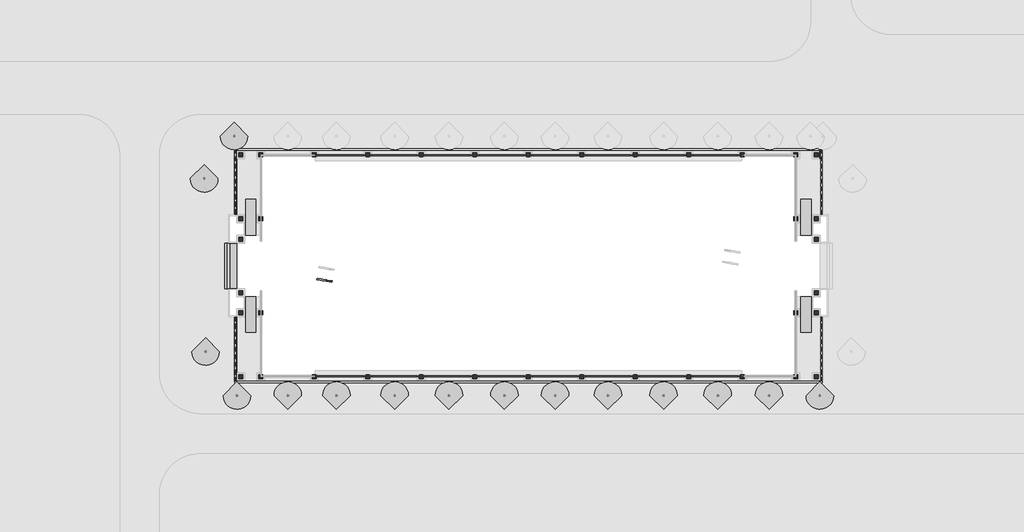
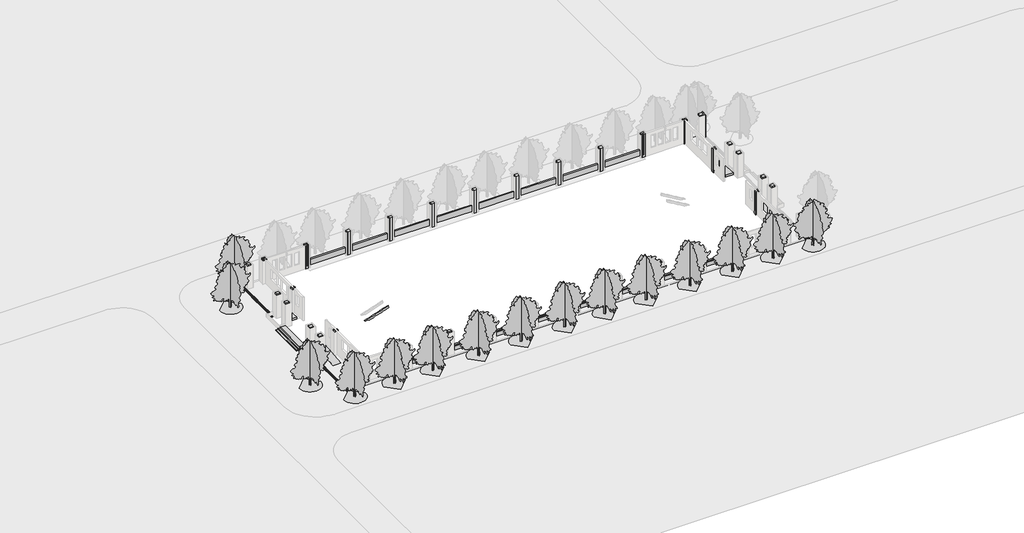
# One storey, part 4 of 5: 38 columns, 15 geographic elements, 5 proxies, 4 ramps, 2 slabs, 1 member, 1 wall.
"""IFC4 building model written with IfcOpenShell, lengths in millimetres."""

from ifc_helpers import new_model, si_unit, frame, origin, place, context, project, spatial, polyline, outline, extrude, faceted_brep, transform, mapped, element, save
from components import generic_models_2f0b77b8, generic_models_5a88f2f2, generic_models_980c342f, generic_models_ba8f26eb, generic_models_7e917ab8, generic_models_fe227e94, generic_models_08f2e09a, column_600_x_600mm_80347e26, column_600_x_600mm_ad8a5c12, geographic_element_3358a221, geographic_element_35dbb388, ramp_6c5225c9, ramp_69e4c4a1, ramp_9aa5c65a, ramp_28147cfc

model = new_model("IFC4")

# Units and contexts
model_context = context("Model", 3, world=origin())
ifc_project = project(units=[si_unit("LENGTHUNIT", "METRE", prefix="MILLI")], contexts=[model_context])

# Site, building, storey
site = spatial("IfcSite", under=ifc_project)
building = spatial("IfcBuilding", under=site)
storey = spatial("IfcBuildingStorey", under=building, Name="室外", Elevation=-450.0)

# Proxies
placement = place(None, origin())
element("IfcBuildingElementProxy", 1, Name="空调板围档", ObjectType="空调板围档", at=placement, inside=storey, context=model_context, shape_type="SweptSolid", body=[
    extrude(outline(polyline([(33280.0, 820.0), (33200.0, 820.0), (33200.0, -20.0), (33050.0, -20.0), (33050.0, 1120.0), (33330.0, 1120.0), (33330.0, 1020.0), (33280.0, 1020.0), (33280.0, 820.0)])), frame((11300.0, 0.0, 0.0), z_axis=(1.0, 0.0, 0.0), x_axis=(0.0, 1.0, 0.0)), (0.0, 0.0, 1.0), 7400.0),
    extrude(outline(polyline([(33280.0, 820.0), (33200.0, 820.0), (33200.0, -20.0), (33050.0, -20.0), (33050.0, 1120.0), (33330.0, 1120.0), (33330.0, 1020.0), (33280.0, 1020.0), (33280.0, 820.0)])), frame((19300.0, 0.0, 0.0), z_axis=(1.0, 0.0, 0.0), x_axis=(0.0, 1.0, 0.0)), (0.0, 0.0, 1.0), 7400.0),
    extrude(outline(polyline([(33280.0, 820.0), (33200.0, 820.0), (33200.0, -20.0), (33050.0, -20.0), (33050.0, 1120.0), (33330.0, 1120.0), (33330.0, 1020.0), (33280.0, 1020.0), (33280.0, 820.0)])), frame((27300.0, 0.0, 0.0), z_axis=(1.0, 0.0, 0.0), x_axis=(0.0, 1.0, 0.0)), (0.0, 0.0, 1.0), 7400.0),
    extrude(outline(polyline([(33280.0, 820.0), (33200.0, 820.0), (33200.0, -20.0), (33050.0, -20.0), (33050.0, 1120.0), (33330.0, 1120.0), (33330.0, 1020.0), (33280.0, 1020.0), (33280.0, 820.0)])), frame((35300.0, 0.0, 0.0), z_axis=(1.0, 0.0, 0.0), x_axis=(0.0, 1.0, 0.0)), (0.0, 0.0, 1.0), 7400.0),
    extrude(outline(polyline([(33280.0, 820.0), (33200.0, 820.0), (33200.0, -20.0), (33050.0, -20.0), (33050.0, 1120.0), (33330.0, 1120.0), (33330.0, 1020.0), (33280.0, 1020.0), (33280.0, 820.0)])), frame((43300.0, 0.0, 0.0), z_axis=(1.0, 0.0, 0.0), x_axis=(0.0, 1.0, 0.0)), (0.0, 0.0, 1.0), 7400.0),
    extrude(outline(polyline([(33280.0, 820.0), (33200.0, 820.0), (33200.0, -20.0), (33050.0, -20.0), (33050.0, 1120.0), (33330.0, 1120.0), (33330.0, 1020.0), (33280.0, 1020.0), (33280.0, 820.0)])), frame((51300.0, 0.0, 0.0), z_axis=(1.0, 0.0, 0.0), x_axis=(0.0, 1.0, 0.0)), (0.0, 0.0, 1.0), 7400.0),
    extrude(outline(polyline([(33280.0, 820.0), (33200.0, 820.0), (33200.0, -20.0), (33050.0, -20.0), (33050.0, 1120.0), (33330.0, 1120.0), (33330.0, 1020.0), (33280.0, 1020.0), (33280.0, 820.0)])), frame((59300.0, 0.0, 0.0), z_axis=(1.0, 0.0, 0.0), x_axis=(0.0, 1.0, 0.0)), (0.0, 0.0, 1.0), 7400.0),
    extrude(outline(polyline([(33280.0, 820.0), (33200.0, 820.0), (33200.0, -20.0), (33050.0, -20.0), (33050.0, 1120.0), (33330.0, 1120.0), (33330.0, 1020.0), (33280.0, 1020.0), (33280.0, 820.0)])), frame((67300.0, 0.0, 0.0), z_axis=(1.0, 0.0, 0.0), x_axis=(0.0, 1.0, 0.0)), (0.0, 0.0, 1.0), 7400.0),
])
element("IfcBuildingElementProxy", 2, Name="空调板围档", ObjectType="空调板围档", at=placement, inside=storey, context=model_context, shape_type="SweptSolid", body=[
    extrude(outline(polyline([(0.0, 820.0), (-80.0, 820.0), (-80.0, 1020.0), (-130.0, 1020.0), (-130.0, 1120.0), (150.0, 1120.0), (150.0, -20.0), (0.0, -20.0), (0.0, 820.0)])), frame((11300.0, 0.0, 0.0), z_axis=(1.0, 0.0, 0.0), x_axis=(0.0, 1.0, 0.0)), (0.0, 0.0, 1.0), 7400.0),
    extrude(outline(polyline([(0.0, 820.0), (-80.0, 820.0), (-80.0, 1020.0), (-130.0, 1020.0), (-130.0, 1120.0), (150.0, 1120.0), (150.0, -20.0), (0.0, -20.0), (0.0, 820.0)])), frame((19300.0, 0.0, 0.0), z_axis=(1.0, 0.0, 0.0), x_axis=(0.0, 1.0, 0.0)), (0.0, 0.0, 1.0), 7400.0),
    extrude(outline(polyline([(0.0, 820.0), (-80.0, 820.0), (-80.0, 1020.0), (-130.0, 1020.0), (-130.0, 1120.0), (150.0, 1120.0), (150.0, -20.0), (0.0, -20.0), (0.0, 820.0)])), frame((27300.0, 0.0, 0.0), z_axis=(1.0, 0.0, 0.0), x_axis=(0.0, 1.0, 0.0)), (0.0, 0.0, 1.0), 7400.0),
    extrude(outline(polyline([(0.0, 820.0), (-80.0, 820.0), (-80.0, 1020.0), (-130.0, 1020.0), (-130.0, 1120.0), (150.0, 1120.0), (150.0, -20.0), (0.0, -20.0), (0.0, 820.0)])), frame((35300.0, 0.0, 0.0), z_axis=(1.0, 0.0, 0.0), x_axis=(0.0, 1.0, 0.0)), (0.0, 0.0, 1.0), 7400.0),
    extrude(outline(polyline([(0.0, 820.0), (-80.0, 820.0), (-80.0, 1020.0), (-130.0, 1020.0), (-130.0, 1120.0), (150.0, 1120.0), (150.0, -20.0), (0.0, -20.0), (0.0, 820.0)])), frame((43300.0, 0.0, 0.0), z_axis=(1.0, 0.0, 0.0), x_axis=(0.0, 1.0, 0.0)), (0.0, 0.0, 1.0), 7400.0),
    extrude(outline(polyline([(0.0, 820.0), (-80.0, 820.0), (-80.0, 1020.0), (-130.0, 1020.0), (-130.0, 1120.0), (150.0, 1120.0), (150.0, -20.0), (0.0, -20.0), (0.0, 820.0)])), frame((51300.0, 0.0, 0.0), z_axis=(1.0, 0.0, 0.0), x_axis=(0.0, 1.0, 0.0)), (0.0, 0.0, 1.0), 7400.0),
    extrude(outline(polyline([(0.0, 820.0), (-80.0, 820.0), (-80.0, 1020.0), (-130.0, 1020.0), (-130.0, 1120.0), (150.0, 1120.0), (150.0, -20.0), (0.0, -20.0), (0.0, 820.0)])), frame((59300.0, 0.0, 0.0), z_axis=(1.0, 0.0, 0.0), x_axis=(0.0, 1.0, 0.0)), (0.0, 0.0, 1.0), 7400.0),
    extrude(outline(polyline([(0.0, 820.0), (-80.0, 820.0), (-80.0, 1020.0), (-130.0, 1020.0), (-130.0, 1120.0), (150.0, 1120.0), (150.0, -20.0), (0.0, -20.0), (0.0, 820.0)])), frame((67300.0, 0.0, 0.0), z_axis=(1.0, 0.0, 0.0), x_axis=(0.0, 1.0, 0.0)), (0.0, 0.0, 1.0), 7400.0),
])
generic_models_shape = generic_models_2f0b77b8(model_context)
element("IfcBuildingElementProxy", 3, Name="室外台阶 : 室外台阶", ObjectType="室外台阶 : 室外台阶", at=placement, inside=storey, context=model_context, shape_type="MappedRepresentation", body=[
    mapped(generic_models_shape, transform((-600.0000001, 19999.7006935, 0.0), x_axis=(0.0, -1.0, 0.0), y_axis=(1.0, 0.0, 0.0), z_axis=(0.0, 0.0, 1.0))),
])
generic_models_2_shape = generic_models_5a88f2f2(model_context)
generic_models_3_shape = generic_models_980c342f(model_context)
generic_models_4_shape = generic_models_ba8f26eb(model_context)
element("IfcBuildingElementProxy", 4, Name="排水沟盖板 : 排水沟盖板", ObjectType="排水沟盖板 : 排水沟盖板", at=placement, inside=storey, context=model_context, shape_type="MappedRepresentation", body=[
    mapped(generic_models_2_shape, transform((-800.0000001, 33799.3961574, -450.0), x_axis=(0.0, -1.0, 0.0), y_axis=(1.0, 0.0, 0.0), z_axis=(0.0, 0.0, 1.0))),
    mapped(generic_models_3_shape, transform((-800.0000001, 33799.3961574, -450.0), x_axis=(0.0, -1.0, 0.0), y_axis=(1.0, 0.0, 0.0), z_axis=(0.0, 0.0, 1.0))),
    mapped(generic_models_4_shape, transform((-800.0000001, 33799.3961574, -450.0), x_axis=(0.0, -1.0, 0.0), y_axis=(1.0, 0.0, 0.0), z_axis=(0.0, 0.0, 1.0))),
])
generic_models_5_shape = generic_models_7e917ab8(model_context)
generic_models_6_shape = generic_models_fe227e94(model_context)
generic_models_7_shape = generic_models_08f2e09a(model_context)
element("IfcBuildingElementProxy", 5, Name="排水沟盖板 : 排水沟盖板", ObjectType="排水沟盖板 : 排水沟盖板", at=placement, inside=storey, context=model_context, shape_type="MappedRepresentation", body=[
    mapped(generic_models_5_shape, transform((-800.0000001, -599.3961574, -450.0), x_axis=(0.0, 1.0, 0.0), y_axis=(-1.0, 0.0, 0.0), z_axis=(0.0, 0.0, 1.0))),
    mapped(generic_models_6_shape, transform((-800.0000001, -599.3961574, -450.0), x_axis=(0.0, 1.0, 0.0), y_axis=(-1.0, 0.0, 0.0), z_axis=(0.0, 0.0, 1.0))),
    mapped(generic_models_7_shape, transform((-800.0000001, -599.3961574, -450.0), x_axis=(0.0, 1.0, 0.0), y_axis=(-1.0, 0.0, 0.0), z_axis=(0.0, 0.0, 1.0))),
])

# Columns
element("IfcColumn", 6, ObjectType="矩形柱 : 600 x 600mm", at=placement, inside=storey, context=model_context, shape_type="SweptSolid", body=[
    extrude(outline(polyline([(2700.0, 32900.0), (2700.0, 33500.0), (3300.0, 33500.0), (3300.0, 33252.6954639), (3167.0000002, 33252.6954639), (2897.0000002, 33252.6954639), (2897.0000002, 32900.0), (2700.0, 32900.0)])), frame((0.0, 0.0, -450.0), z_axis=(0.0, 0.0, 1.0), x_axis=(1.0, 0.0, 0.0)), (0.0, 0.0, 1.0), 4650.0),
    extrude(outline(polyline([(3300.0, 32900.0), (3167.0000002, 32900.0), (3167.0000002, 32982.6954639), (3300.0, 32982.6954639), (3300.0, 32900.0)])), frame((0.0, 0.0, -450.0), z_axis=(0.0, 0.0, 1.0), x_axis=(1.0, 0.0, 0.0)), (0.0, 0.0, 1.0), 4650.0),
])
element("IfcColumn", 7, ObjectType="矩形柱 : 600 x 600mm", at=placement, inside=storey, context=model_context, shape_type="Brep", body=[
    faceted_brep([(11300.0, 33500.0, 4200.0), (10700.0, 33500.0, 4200.0), (10700.0, 33252.6954639, 4200.0), (11153.0, 33252.6954639, 4200.0), (11153.0, 32982.6954639, 4200.0), (11153.0, 32900.0, 4200.0), (11300.0, 32900.0, 4200.0), (11300.0, 32929.640208, 4200.0), (11300.0, 33500.0, -450.0), (11300.0, 32929.640208, -450.0), (11300.0, 32900.0, -450.0), (10700.0, 32900.0, -450.0), (10700.0, 32982.6954639, -450.0), (11153.0, 32982.6954639, -450.0), (11153.0, 33252.6954639, -450.0), (10700.0, 33252.6954639, -450.0), (10700.0, 33500.0, -450.0), (11153.0, 32900.0, 0.0), (10883.0, 32900.0, 0.0), (10883.0, 32900.0, 4200.0), (10700.0, 32900.0, 4200.0), (10700.0, 32982.6954639, 4200.0), (10883.0, 32982.6954639, 4200.0), (10883.0, 32982.6954639, 0.0), (11153.0, 32982.6954639, 0.0)], [[[0, 1, 2, 3, 4, 5, 6, 7]], [[8, 9, 10, 11, 12, 13, 14, 15, 16]], [[1, 0, 8, 16]], [[1, 16, 15, 2]], [[11, 10, 6, 5, 17, 18, 19, 20]], [[0, 7, 6, 10, 9, 8]], [[12, 21, 22, 23, 24, 13]], [[14, 3, 2, 15]], [[3, 14, 13, 24, 4]], [[18, 23, 22, 19]], [[24, 17, 5, 4]], [[23, 18, 17, 24]], [[21, 20, 19, 22]], [[11, 20, 21, 12]]]),
])
element("IfcColumn", 8, ObjectType="矩形柱 : 600 x 600mm", at=placement, inside=storey, context=model_context, shape_type="Brep", body=[
    faceted_brep([(19300.0, 33500.0, 4200.0), (18700.0, 33500.0, 4200.0), (18700.0, 32929.640208, 4200.0), (18700.0, 32900.0, 4200.0), (19300.0, 32900.0, 4200.0), (19300.0, 32929.640208, 4200.0), (19300.0, 33500.0, -450.0), (19300.0, 32929.640208, -450.0), (19300.0, 32900.0, -450.0), (18700.0, 32900.0, -450.0), (18700.0, 32929.640208, -450.0), (18700.0, 33500.0, -450.0)], [[[0, 1, 2, 3, 4, 5]], [[6, 7, 8, 9, 10, 11]], [[1, 0, 6, 11]], [[3, 2, 1, 11, 10, 9]], [[4, 3, 9, 8]], [[0, 5, 4, 8, 7, 6]]]),
])
element("IfcColumn", 9, ObjectType="矩形柱 : 600 x 600mm", at=placement, inside=storey, context=model_context, shape_type="Brep", body=[
    faceted_brep([(27300.0, 33500.0, 4200.0), (26700.0, 33500.0, 4200.0), (26700.0, 32929.640208, 4200.0), (26700.0, 32900.0, 4200.0), (27300.0, 32900.0, 4200.0), (27300.0, 32929.640208, 4200.0), (27300.0, 33500.0, -450.0), (27300.0, 32929.640208, -450.0), (27300.0, 32900.0, -450.0), (26700.0, 32900.0, -450.0), (26700.0, 32929.640208, -450.0), (26700.0, 33500.0, -450.0)], [[[0, 1, 2, 3, 4, 5]], [[6, 7, 8, 9, 10, 11]], [[1, 0, 6, 11]], [[3, 2, 1, 11, 10, 9]], [[4, 3, 9, 8]], [[0, 5, 4, 8, 7, 6]]]),
])
element("IfcColumn", 10, ObjectType="矩形柱 : 600 x 600mm", at=placement, inside=storey, context=model_context, shape_type="Brep", body=[
    faceted_brep([(35300.0, 33500.0, 4200.0), (34700.0, 33500.0, 4200.0), (34700.0, 32929.640208, 4200.0), (34700.0, 32900.0, 4200.0), (35300.0, 32900.0, 4200.0), (35300.0, 32929.640208, 4200.0), (35300.0, 33500.0, -450.0), (35300.0, 32929.640208, -450.0), (35300.0, 32900.0, -450.0), (34700.0, 32900.0, -450.0), (34700.0, 32929.640208, -450.0), (34700.0, 33500.0, -450.0)], [[[0, 1, 2, 3, 4, 5]], [[6, 7, 8, 9, 10, 11]], [[1, 0, 6, 11]], [[3, 2, 1, 11, 10, 9]], [[4, 3, 9, 8]], [[0, 5, 4, 8, 7, 6]]]),
])
element("IfcColumn", 11, ObjectType="矩形柱 : 600 x 600mm", at=placement, inside=storey, context=model_context, shape_type="Brep", body=[
    faceted_brep([(43300.0, 33500.0, 4200.0), (42700.0, 33500.0, 4200.0), (42700.0, 32929.640208, 4200.0), (42700.0, 32900.0, 4200.0), (43300.0, 32900.0, 4200.0), (43300.0, 32929.640208, 4200.0), (43300.0, 33500.0, -450.0), (43300.0, 32929.640208, -450.0), (43300.0, 32900.0, -450.0), (42700.0, 32900.0, -450.0), (42700.0, 32929.640208, -450.0), (42700.0, 33500.0, -450.0)], [[[0, 1, 2, 3, 4, 5]], [[6, 7, 8, 9, 10, 11]], [[1, 0, 6, 11]], [[3, 2, 1, 11, 10, 9]], [[4, 3, 9, 8]], [[0, 5, 4, 8, 7, 6]]]),
])
element("IfcColumn", 12, ObjectType="矩形柱 : 600 x 600mm", at=placement, inside=storey, context=model_context, shape_type="Brep", body=[
    faceted_brep([(51300.0, 33500.0, 4200.0), (50700.0, 33500.0, 4200.0), (50700.0, 32929.640208, 4200.0), (50700.0, 32900.0, 4200.0), (51300.0, 32900.0, 4200.0), (51300.0, 32929.640208, 4200.0), (51300.0, 33500.0, -450.0), (51300.0, 32929.640208, -450.0), (51300.0, 32900.0, -450.0), (50700.0, 32900.0, -450.0), (50700.0, 32929.640208, -450.0), (50700.0, 33500.0, -450.0)], [[[0, 1, 2, 3, 4, 5]], [[6, 7, 8, 9, 10, 11]], [[1, 0, 6, 11]], [[3, 2, 1, 11, 10, 9]], [[4, 3, 9, 8]], [[0, 5, 4, 8, 7, 6]]]),
])
element("IfcColumn", 13, ObjectType="矩形柱 : 600 x 600mm", at=placement, inside=storey, context=model_context, shape_type="Brep", body=[
    faceted_brep([(59300.0, 33500.0, 4200.0), (58700.0, 33500.0, 4200.0), (58700.0, 32929.640208, 4200.0), (58700.0, 32900.0, 4200.0), (59300.0, 32900.0, 4200.0), (59300.0, 32929.640208, 4200.0), (59300.0, 33500.0, -450.0), (59300.0, 32929.640208, -450.0), (59300.0, 32900.0, -450.0), (58700.0, 32900.0, -450.0), (58700.0, 32929.640208, -450.0), (58700.0, 33500.0, -450.0)], [[[0, 1, 2, 3, 4, 5]], [[6, 7, 8, 9, 10, 11]], [[1, 0, 6, 11]], [[3, 2, 1, 11, 10, 9]], [[4, 3, 9, 8]], [[0, 5, 4, 8, 7, 6]]]),
])
element("IfcColumn", 14, ObjectType="矩形柱 : 600 x 600mm", at=placement, inside=storey, context=model_context, shape_type="Brep", body=[
    faceted_brep([(67300.0, 33500.0, 4200.0), (66700.0, 33500.0, 4200.0), (66700.0, 32929.640208, 4200.0), (66700.0, 32900.0, 4200.0), (67300.0, 32900.0, 4200.0), (67300.0, 32929.640208, 4200.0), (67300.0, 33500.0, -450.0), (67300.0, 32929.640208, -450.0), (67300.0, 32900.0, -450.0), (66700.0, 32900.0, -450.0), (66700.0, 32929.640208, -450.0), (66700.0, 33500.0, -450.0)], [[[0, 1, 2, 3, 4, 5]], [[6, 7, 8, 9, 10, 11]], [[1, 0, 6, 11]], [[3, 2, 1, 11, 10, 9]], [[4, 3, 9, 8]], [[0, 5, 4, 8, 7, 6]]]),
])
element("IfcColumn", 15, ObjectType="矩形柱 : 600 x 600mm", at=placement, inside=storey, context=model_context, shape_type="Brep", body=[
    faceted_brep([(19300.0, -300.0, 4200.0), (19300.0, 270.359792, 4200.0), (19300.0, 300.0, 4200.0), (18700.0, 300.0, 4200.0), (18700.0, 270.359792, 4200.0), (18700.0, -300.0, 4200.0), (19300.0, -300.0, -450.0), (18700.0, -300.0, -450.0), (18700.0, 270.359792, -450.0), (18700.0, 300.0, -450.0), (19300.0, 300.0, -450.0), (19300.0, 270.359792, -450.0)], [[[0, 1, 2, 3, 4, 5]], [[6, 7, 8, 9, 10, 11]], [[5, 7, 6, 0]], [[3, 9, 8, 7, 5, 4]], [[2, 10, 9, 3]], [[0, 6, 11, 10, 2, 1]]]),
])
element("IfcColumn", 16, ObjectType="矩形柱 : 600 x 600mm", at=placement, inside=storey, context=model_context, shape_type="Brep", body=[
    faceted_brep([(27300.0, -300.0, 4200.0), (27300.0, 270.359792, 4200.0), (27300.0, 300.0, 4200.0), (26700.0, 300.0, 4200.0), (26700.0, 270.359792, 4200.0), (26700.0, -300.0, 4200.0), (27300.0, -300.0, -450.0), (26700.0, -300.0, -450.0), (26700.0, 270.359792, -450.0), (26700.0, 300.0, -450.0), (27300.0, 300.0, -450.0), (27300.0, 270.359792, -450.0)], [[[0, 1, 2, 3, 4, 5]], [[6, 7, 8, 9, 10, 11]], [[5, 7, 6, 0]], [[3, 9, 8, 7, 5, 4]], [[2, 10, 9, 3]], [[0, 6, 11, 10, 2, 1]]]),
])
element("IfcColumn", 17, ObjectType="矩形柱 : 600 x 600mm", at=placement, inside=storey, context=model_context, shape_type="Brep", body=[
    faceted_brep([(35300.0, -300.0, 4200.0), (35300.0, 270.359792, 4200.0), (35300.0, 300.0, 4200.0), (34700.0, 300.0, 4200.0), (34700.0, 270.359792, 4200.0), (34700.0, -300.0, 4200.0), (35300.0, -300.0, -450.0), (34700.0, -300.0, -450.0), (34700.0, 270.359792, -450.0), (34700.0, 300.0, -450.0), (35300.0, 300.0, -450.0), (35300.0, 270.359792, -450.0)], [[[0, 1, 2, 3, 4, 5]], [[6, 7, 8, 9, 10, 11]], [[5, 7, 6, 0]], [[3, 9, 8, 7, 5, 4]], [[2, 10, 9, 3]], [[0, 6, 11, 10, 2, 1]]]),
])
element("IfcColumn", 18, ObjectType="矩形柱 : 600 x 600mm", at=placement, inside=storey, context=model_context, shape_type="Brep", body=[
    faceted_brep([(43300.0, -300.0, 4200.0), (43300.0, 270.359792, 4200.0), (43300.0, 300.0, 4200.0), (42700.0, 300.0, 4200.0), (42700.0, 270.359792, 4200.0), (42700.0, -300.0, 4200.0), (43300.0, -300.0, -450.0), (42700.0, -300.0, -450.0), (42700.0, 270.359792, -450.0), (42700.0, 300.0, -450.0), (43300.0, 300.0, -450.0), (43300.0, 270.359792, -450.0)], [[[0, 1, 2, 3, 4, 5]], [[6, 7, 8, 9, 10, 11]], [[5, 7, 6, 0]], [[3, 9, 8, 7, 5, 4]], [[2, 10, 9, 3]], [[0, 6, 11, 10, 2, 1]]]),
])
element("IfcColumn", 19, ObjectType="矩形柱 : 600 x 600mm", at=placement, inside=storey, context=model_context, shape_type="Brep", body=[
    faceted_brep([(51300.0, -300.0, 4200.0), (51300.0, 270.359792, 4200.0), (51300.0, 300.0, 4200.0), (50700.0, 300.0, 4200.0), (50700.0, 270.359792, 4200.0), (50700.0, -300.0, 4200.0), (51300.0, -300.0, -450.0), (50700.0, -300.0, -450.0), (50700.0, 270.359792, -450.0), (50700.0, 300.0, -450.0), (51300.0, 300.0, -450.0), (51300.0, 270.359792, -450.0)], [[[0, 1, 2, 3, 4, 5]], [[6, 7, 8, 9, 10, 11]], [[5, 7, 6, 0]], [[3, 9, 8, 7, 5, 4]], [[2, 10, 9, 3]], [[0, 6, 11, 10, 2, 1]]]),
])
element("IfcColumn", 20, ObjectType="矩形柱 : 600 x 600mm", at=placement, inside=storey, context=model_context, shape_type="Brep", body=[
    faceted_brep([(59300.0, -300.0, 4200.0), (59300.0, 270.359792, 4200.0), (59300.0, 300.0, 4200.0), (58700.0, 300.0, 4200.0), (58700.0, 270.359792, 4200.0), (58700.0, -300.0, 4200.0), (59300.0, -300.0, -450.0), (58700.0, -300.0, -450.0), (58700.0, 270.359792, -450.0), (58700.0, 300.0, -450.0), (59300.0, 300.0, -450.0), (59300.0, 270.359792, -450.0)], [[[0, 1, 2, 3, 4, 5]], [[6, 7, 8, 9, 10, 11]], [[5, 7, 6, 0]], [[3, 9, 8, 7, 5, 4]], [[2, 10, 9, 3]], [[0, 6, 11, 10, 2, 1]]]),
])
element("IfcColumn", 21, ObjectType="矩形柱 : 600 x 600mm", at=placement, inside=storey, context=model_context, shape_type="Brep", body=[
    faceted_brep([(67300.0, -300.0, 4200.0), (67300.0, 270.359792, 4200.0), (67300.0, 300.0, 4200.0), (66700.0, 300.0, 4200.0), (66700.0, 270.359792, 4200.0), (66700.0, -300.0, 4200.0), (67300.0, -300.0, -450.0), (66700.0, -300.0, -450.0), (66700.0, 270.359792, -450.0), (66700.0, 300.0, -450.0), (67300.0, 300.0, -450.0), (67300.0, 270.359792, -450.0)], [[[0, 1, 2, 3, 4, 5]], [[6, 7, 8, 9, 10, 11]], [[5, 7, 6, 0]], [[3, 9, 8, 7, 5, 4]], [[2, 10, 9, 3]], [[0, 6, 11, 10, 2, 1]]]),
])
element("IfcColumn", 22, ObjectType="矩形柱 : 600 x 600mm", at=placement, inside=storey, context=model_context, shape_type="Brep", body=[
    faceted_brep([(75300.0, 300.0, 4200.0), (75117.0, 300.0, 4200.0), (75117.0, 217.3045358, 4200.0), (75300.0, 217.3045358, 4200.0), (74700.0, 300.0, -450.0), (75300.0, 300.0, -450.0), (75300.0, 217.3045358, -450.0), (75117.0, 217.3045358, -450.0), (75117.0, -52.6954642, -450.0), (75300.0, -52.6954642, -450.0), (75300.0, -300.0, -450.0), (74700.0, -300.0, -450.0), (74700.0, 269.7507199, -450.0), (74700.0, 299.7507199, -450.0), (75300.0, -300.0, 4200.0), (74700.0, -300.0, 4200.0), (74700.0, 269.7507199, 4200.0), (74700.0, 299.7507199, 4200.0), (74700.0, 300.0, 4200.0), (74847.0, 300.0, 4200.0), (74847.0, 300.0, 0.0), (75117.0, 300.0, 0.0), (74847.0, -52.6954642, 4200.0), (74847.0, -52.6954642, 0.0), (75117.0, 217.3045358, 0.0), (75117.0, 217.3045358, 4050.0), (75117.0, -52.6954642, 0.0), (75117.0, -52.6954642, 4200.0), (75300.0, -52.6954642, 4200.0)], [[[0, 1, 2, 3]], [[4, 5, 6, 7, 8, 9, 10, 11, 12, 13]], [[14, 15, 11, 10]], [[15, 16, 17, 18, 4, 13, 12, 11]], [[5, 4, 18, 19, 20, 21, 1, 0]], [[5, 0, 3, 6]], [[22, 23, 20, 19]], [[1, 21, 24, 25, 2]], [[23, 26, 24, 21, 20]], [[23, 22, 27, 26]], [[8, 26, 27, 28, 9]], [[24, 7, 6, 3, 2, 25]], [[26, 8, 7, 24]], [[15, 14, 28, 27, 22, 19, 18, 17, 16]], [[14, 10, 9, 28]]]),
])
element("IfcColumn", 23, ObjectType="矩形柱 : 600 x 600mm", at=placement, inside=storey, context=model_context, shape_type="Brep", body=[
    faceted_brep([(3300.0, 23900.0, 4200.0), (3167.0000002, 23900.0, 4200.0), (3167.0000002, 23516.723093, 4200.0), (3300.0, 23516.723093, 4200.0), (3300.0, 23900.0, -450.0), (3167.0000002, 23900.0, -450.0), (3300.0, 23300.0, -450.0), (3300.0, 23516.723093, 2400.0), (3300.0, 23516.723093, 0.0), (3300.0, 23300.0, 0.0), (3167.0000002, 23300.0, -450.0), (3167.0000002, 23300.0, 0.0), (3167.0000002, 23516.723093, 0.0)], [[[0, 1, 2, 3]], [[0, 4, 5, 1]], [[6, 4, 0, 3, 7, 8, 9]], [[1, 5, 10, 11, 12, 2]], [[12, 8, 7, 3, 2]], [[8, 12, 11, 9]], [[4, 6, 10, 5]], [[10, 6, 9, 11]]]),
    faceted_brep([(2700.0, 23300.0, -450.0), (2700.0, 23900.0, -450.0), (2897.0000002, 23900.0, -450.0), (2897.0000002, 23300.0, -450.0), (2700.0, 23300.0, 4200.0), (2700.0, 23900.0, 4200.0), (2897.0000002, 23300.0, 4200.0), (2897.0000002, 23900.0, 4200.0)], [[[0, 1, 2, 3]], [[4, 5, 1, 0]], [[4, 0, 3, 6]], [[7, 6, 3, 2]], [[5, 4, 6, 7]], [[1, 5, 7, 2]]]),
])
element("IfcColumn", 24, ObjectType="矩形柱 : 600 x 600mm", at=placement, inside=storey, context=model_context, shape_type="SweptSolid", body=[
    extrude(outline(polyline([(83300.0, 33500.0), (83300.0, 32900.0), (83102.9999995, 32900.0), (83102.9999995, 32982.6954642), (83102.9999995, 33252.6954642), (82700.0, 33252.6954642), (82700.0, 33500.0), (83300.0, 33500.0)])), frame((0.0, 0.0, -450.0), z_axis=(0.0, 0.0, 1.0), x_axis=(1.0, 0.0, 0.0)), (0.0, 0.0, 1.0), 4650.0),
    extrude(outline(polyline([(82700.0, 32900.0), (82700.0, 32982.6954642), (82832.9999995, 32982.6954642), (82832.9999995, 32900.0), (82700.0, 32900.0)])), frame((0.0, 0.0, -450.0), z_axis=(0.0, 0.0, 1.0), x_axis=(1.0, 0.0, 0.0)), (0.0, 0.0, 1.0), 4650.0),
])
element("IfcColumn", 25, ObjectType="矩形柱 : 600 x 600mm", at=placement, inside=storey, context=model_context, shape_type="Brep", body=[
    faceted_brep([(83300.0, 23300.0, 4200.0), (83300.0, 23900.0, 4200.0), (83102.9999995, 23900.0, 4200.0), (83102.9999995, 23300.0, 4200.0), (83300.0, 23900.0, -450.0), (83102.9999995, 23900.0, -450.0), (83300.0, 23300.0, -450.0), (83102.9999995, 23300.0, -450.0)], [[[0, 1, 2, 3]], [[1, 4, 5, 2]], [[1, 0, 6, 4]], [[3, 2, 5, 7]], [[4, 6, 7, 5]], [[6, 0, 3, 7]]]),
    faceted_brep([(82700.0, 23300.0, -450.0), (82700.0, 23900.0, -450.0), (82832.9999995, 23900.0, -450.0), (82832.9999995, 23300.0, -450.0), (82700.0, 23300.0, 0.0), (82700.0, 23516.2230996, 0.0), (82700.0, 23516.2230996, 2400.0), (82700.0, 23516.2230996, 4200.0), (82700.0, 23900.0, 4200.0), (82832.9999995, 23300.0, 0.0), (82832.9999995, 23900.0, 4200.0), (82832.9999995, 23516.2230996, 4200.0), (82832.9999995, 23516.2230996, 0.0)], [[[0, 1, 2, 3]], [[1, 0, 4, 5, 6, 7, 8]], [[0, 3, 9, 4]], [[2, 10, 11, 12, 9, 3]], [[10, 8, 7, 11]], [[5, 12, 11, 7, 6]], [[12, 5, 4, 9]], [[1, 8, 10, 2]]]),
])
element("IfcColumn", 26, ObjectType="矩形柱 : 600 x 600mm", at=placement, inside=storey, context=model_context, shape_type="Brep", body=[
    faceted_brep([(83300.0, 9300.0, 4200.0), (83300.0, 9900.0, 4200.0), (83102.9999995, 9900.0, 4200.0), (83102.9999995, 9300.0, 4200.0), (83300.0, 9900.0, -450.0), (83102.9999995, 9900.0, -450.0), (83300.0, 9300.0, -450.0), (83102.9999995, 9300.0, -450.0)], [[[0, 1, 2, 3]], [[1, 4, 5, 2]], [[1, 0, 6, 4]], [[3, 2, 5, 7]], [[4, 6, 7, 5]], [[6, 0, 3, 7]]]),
    faceted_brep([(82700.0, 9300.0, -450.0), (82700.0, 9900.0, -450.0), (82832.9999995, 9900.0, -450.0), (82832.9999995, 9300.0, -450.0), (82700.0, 9300.0, 4200.0), (82700.0, 9683.7769004, 4200.0), (82700.0, 9683.7769004, 2400.0), (82700.0, 9683.7769004, 0.0), (82700.0, 9900.0, 0.0), (82832.9999995, 9300.0, 4200.0), (82832.9999995, 9900.0, 0.0), (82832.9999995, 9683.7769004, 0.0), (82832.9999995, 9683.7769004, 4200.0)], [[[0, 1, 2, 3]], [[1, 0, 4, 5, 6, 7, 8]], [[4, 0, 3, 9]], [[9, 3, 2, 10, 11, 12]], [[4, 9, 12, 5]], [[11, 7, 6, 5, 12]], [[7, 11, 10, 8]], [[2, 1, 8, 10]]]),
])
element("IfcColumn", 27, ObjectType="矩形柱 : 600 x 600mm", at=placement, inside=storey, context=model_context, shape_type="Brep", body=[
    faceted_brep([(10700.0, 300.0, 4200.0), (10700.0, 217.3045361, 4200.0), (10883.0, 217.3045361, 4200.0), (10883.0, 300.0, 4200.0), (11300.0, 300.0, -450.0), (11300.0, 270.359792, -450.0), (11300.0, -300.0, -450.0), (10700.0, -300.0, -450.0), (10700.0, -52.6954639, -450.0), (11153.0, -52.6954639, -450.0), (11153.0, 217.3045361, -450.0), (10700.0, 217.3045361, -450.0), (10700.0, 300.0, -450.0), (10883.0, 300.0, 0.0), (11153.0, 300.0, 0.0), (11153.0, 300.0, 4200.0), (11300.0, 300.0, 4200.0), (11300.0, -300.0, 4200.0), (10700.0, -300.0, 4200.0), (11300.0, 270.359792, 4200.0), (11153.0, -52.6954639, 4200.0), (10700.0, -52.6954639, 4200.0), (11153.0, 217.3045361, 0.0), (10883.0, 217.3045361, 0.0), (11153.0, 217.3045361, 4200.0)], [[[0, 1, 2, 3]], [[4, 5, 6, 7, 8, 9, 10, 11, 12]], [[4, 12, 0, 3, 13, 14, 15, 16]], [[0, 12, 11, 1]], [[17, 18, 7, 6]], [[16, 19, 17, 6, 5, 4]], [[20, 9, 8, 21]], [[1, 11, 10, 22, 23, 2]], [[9, 20, 24, 22, 10]], [[14, 22, 24, 15]], [[23, 13, 3, 2]], [[22, 14, 13, 23]], [[18, 17, 19, 16, 15, 24, 20, 21]], [[7, 18, 21, 8]]]),
])
element("IfcColumn", 28, ObjectType="矩形柱 : 600 x 600mm", at=placement, inside=storey, context=model_context, shape_type="SweptSolid", body=[
    extrude(outline(polyline([(3167.0000002, 300.0), (3300.0, 300.0), (3300.0, 217.3045361), (3167.0000002, 217.3045361), (3167.0000002, 300.0)])), frame((0.0, 0.0, -450.0), z_axis=(0.0, 0.0, 1.0), x_axis=(1.0, 0.0, 0.0)), (0.0, 0.0, 1.0), 4650.0),
    extrude(outline(polyline([(3300.0, -300.0), (2700.0, -300.0), (2700.0, 300.0), (2897.0000002, 300.0), (2897.0000002, -52.6954639), (3167.0000002, -52.6954639), (3300.0, -52.6954639), (3300.0, -300.0)])), frame((0.0, 0.0, -450.0), z_axis=(0.0, 0.0, 1.0), x_axis=(1.0, 0.0, 0.0)), (0.0, 0.0, 1.0), 4650.0),
])
element("IfcColumn", 29, ObjectType="矩形柱 : 600 x 600mm", at=placement, inside=storey, context=model_context, shape_type="Brep", body=[
    faceted_brep([(3167.0000002, 9300.0, 4200.0), (3300.0, 9300.0, 4200.0), (3300.0, 9683.276907, 4200.0), (3167.0000002, 9683.276907, 4200.0), (3300.0, 9900.0, -450.0), (3167.0000002, 9900.0, -450.0), (3167.0000002, 9900.0, 0.0), (3300.0, 9900.0, 0.0), (3300.0, 9300.0, -450.0), (3300.0, 9683.276907, 0.0), (3300.0, 9683.276907, 2400.0), (3167.0000002, 9300.0, -450.0), (3167.0000002, 9683.276907, 0.0)], [[[0, 1, 2, 3]], [[4, 5, 6, 7]], [[8, 4, 7, 9, 10, 2, 1]], [[11, 0, 3, 12, 6, 5]], [[9, 12, 3, 2, 10]], [[12, 9, 7, 6]], [[4, 8, 11, 5]], [[8, 1, 0, 11]]]),
    faceted_brep([(2700.0, 9300.0, -450.0), (2700.0, 9900.0, -450.0), (2897.0000002, 9900.0, -450.0), (2897.0000002, 9300.0, -450.0), (2700.0, 9300.0, 4200.0), (2700.0, 9900.0, 4200.0), (2897.0000002, 9300.0, 4200.0), (2897.0000002, 9900.0, 4200.0)], [[[0, 1, 2, 3]], [[4, 5, 1, 0]], [[4, 0, 3, 6]], [[7, 6, 3, 2]], [[5, 4, 6, 7]], [[1, 5, 7, 2]]]),
])
element("IfcColumn", 30, ObjectType="矩形柱 : 600 x 600mm", at=placement, inside=storey, context=model_context, shape_type="Brep", body=[
    faceted_brep([(75300.0, 33500.0, 4200.0), (74700.0, 33500.0, 4200.0), (74700.0, 32929.640208, 4200.0), (74700.0, 32900.0, 4200.0), (74847.0, 32900.0, 4200.0), (74847.0, 33252.6954642, 4200.0), (75117.0, 33252.6954642, 4200.0), (75300.0, 33252.6954642, 4200.0), (75300.0, 32900.0, -450.0), (74700.0, 32900.0, -450.0), (74700.0, 32929.640208, -450.0), (74700.0, 33500.0, -450.0), (75300.0, 33500.0, -450.0), (75300.0, 33252.6954642, -450.0), (75117.0, 33252.6954642, -450.0), (75117.0, 32982.6954642, -450.0), (75300.0, 32982.6954642, -450.0), (75300.0, 32900.0, 4200.0), (75117.0, 32900.0, 4200.0), (75117.0, 32900.0, 0.0), (74847.0, 32900.0, 0.0), (75117.0, 32982.6954642, 4200.0), (75117.0, 32982.6954642, 0.0), (74847.0, 33252.6954642, 0.0), (75117.0, 33252.6954642, 0.0), (75300.0, 32982.6954642, 4200.0)], [[[0, 1, 2, 3, 4, 5, 6, 7]], [[8, 9, 10, 11, 12, 13, 14, 15, 16]], [[1, 0, 12, 11]], [[3, 2, 1, 11, 10, 9]], [[9, 8, 17, 18, 19, 20, 4, 3]], [[12, 0, 7, 13]], [[19, 18, 21, 22]], [[23, 5, 4, 20]], [[24, 23, 20, 19, 22]], [[5, 23, 24, 6]], [[15, 22, 21, 25, 16]], [[24, 14, 13, 7, 6]], [[14, 24, 22, 15]], [[18, 17, 25, 21]], [[17, 8, 16, 25]]]),
])
element("IfcColumn", 31, ObjectType="矩形柱 : 600 x 600mm", at=placement, inside=storey, context=model_context, shape_type="SweptSolid", body=[
    extrude(outline(polyline([(82700.0, 217.3045358), (82700.0, 300.0), (82832.9999995, 300.0), (82832.9999995, 217.3045358), (82700.0, 217.3045358)])), frame((0.0, 0.0, -450.0), z_axis=(0.0, 0.0, 1.0), x_axis=(1.0, 0.0, 0.0)), (0.0, 0.0, 1.0), 4650.0),
    extrude(outline(polyline([(83300.0, 300.0), (83300.0, -300.0), (82700.0, -300.0), (82700.0, -52.6954642), (83102.9999995, -52.6954642), (83102.9999995, 217.3045358), (83102.9999995, 300.0), (83300.0, 300.0)])), frame((0.0, 0.0, -450.0), z_axis=(0.0, 0.0, 1.0), x_axis=(1.0, 0.0, 0.0)), (0.0, 0.0, 1.0), 4650.0),
])
column_600_x_600mm_shape = column_600_x_600mm_80347e26(model_context)
element("IfcColumn", 32, ObjectType="矩形柱 : 600 x 600mm", at=placement, inside=storey, context=model_context, shape_type="MappedRepresentation", body=[
    mapped(column_600_x_600mm_shape, transform((0.0, 33200.0, 0.0), x_axis=(1.0, 0.0, 0.0), y_axis=(0.0, 1.0, 0.0), z_axis=(0.0, 0.0, 1.0))),
])
element("IfcColumn", 33, ObjectType="矩形柱 : 600 x 600mm", at=placement, inside=storey, context=model_context, shape_type="MappedRepresentation", body=[
    mapped(column_600_x_600mm_shape, transform((86000.0, 33200.0, 0.0), x_axis=(1.0, 0.0, 0.0), y_axis=(0.0, 1.0, 0.0), z_axis=(0.0, 0.0, 1.0))),
])
element("IfcColumn", 34, ObjectType="矩形柱 : 600 x 600mm", at=placement, inside=storey, context=model_context, shape_type="MappedRepresentation", body=[
    mapped(column_600_x_600mm_shape, transform((86000.0, 23600.0, 0.0), x_axis=(1.0, 0.0, 0.0), y_axis=(0.0, 1.0, 0.0), z_axis=(0.0, 0.0, 1.0))),
])
element("IfcColumn", 35, ObjectType="矩形柱 : 600 x 600mm", at=placement, inside=storey, context=model_context, shape_type="MappedRepresentation", body=[
    mapped(column_600_x_600mm_shape, transform((0.0, 23600.0, 0.0), x_axis=(1.0, 0.0, 0.0), y_axis=(0.0, 1.0, 0.0), z_axis=(0.0, 0.0, 1.0))),
])
element("IfcColumn", 36, ObjectType="矩形柱 : 600 x 600mm", at=placement, inside=storey, context=model_context, shape_type="MappedRepresentation", body=[
    mapped(column_600_x_600mm_shape, transform((0.0, 20600.0, 0.0), x_axis=(1.0, 0.0, 0.0), y_axis=(0.0, 1.0, 0.0), z_axis=(0.0, 0.0, 1.0))),
])
element("IfcColumn", 37, ObjectType="矩形柱 : 600 x 600mm", at=placement, inside=storey, context=model_context, shape_type="MappedRepresentation", body=[
    mapped(column_600_x_600mm_shape, transform((86000.0, 20600.0, 0.0), x_axis=(1.0, 0.0, 0.0), y_axis=(0.0, 1.0, 0.0), z_axis=(0.0, 0.0, 1.0))),
])
element("IfcColumn", 38, ObjectType="矩形柱 : 600 x 600mm", at=placement, inside=storey, context=model_context, shape_type="MappedRepresentation", body=[
    mapped(column_600_x_600mm_shape, transform((86000.0, 0.0, 0.0), x_axis=(1.0, 0.0, 0.0), y_axis=(0.0, 1.0, 0.0), z_axis=(0.0, 0.0, 1.0))),
])
column_600_x_600mm_2_shape = column_600_x_600mm_ad8a5c12(model_context)
element("IfcColumn", 39, ObjectType="矩形柱 : 600 x 600mm", at=placement, inside=storey, context=model_context, shape_type="MappedRepresentation", body=[
    mapped(column_600_x_600mm_2_shape, transform((0.0, 0.0, 0.0), x_axis=(1.0, 0.0, 0.0), y_axis=(0.0, 1.0, 0.0), z_axis=(0.0, 0.0, 1.0))),
])
element("IfcColumn", 40, ObjectType="矩形柱 : 600 x 600mm", at=placement, inside=storey, context=model_context, shape_type="MappedRepresentation", body=[
    mapped(column_600_x_600mm_2_shape, transform((86000.0, 9600.0, 0.0), x_axis=(1.0, 0.0, 0.0), y_axis=(0.0, 1.0, 0.0), z_axis=(0.0, 0.0, 1.0))),
])
element("IfcColumn", 41, ObjectType="矩形柱 : 600 x 600mm", at=placement, inside=storey, context=model_context, shape_type="MappedRepresentation", body=[
    mapped(column_600_x_600mm_2_shape, transform((0.0, 9600.0, 0.0), x_axis=(1.0, 0.0, 0.0), y_axis=(0.0, 1.0, 0.0), z_axis=(0.0, 0.0, 1.0))),
])
element("IfcColumn", 42, ObjectType="矩形柱 : 600 x 600mm", at=placement, inside=storey, context=model_context, shape_type="MappedRepresentation", body=[
    mapped(column_600_x_600mm_2_shape, transform((0.0, 12600.0, 0.0), x_axis=(1.0, 0.0, 0.0), y_axis=(0.0, 1.0, 0.0), z_axis=(0.0, 0.0, 1.0))),
])
element("IfcColumn", 43, ObjectType="矩形柱 : 600 x 600mm", at=placement, inside=storey, context=model_context, shape_type="MappedRepresentation", body=[
    mapped(column_600_x_600mm_2_shape, transform((86000.0, 12600.0, 0.0), x_axis=(1.0, 0.0, 0.0), y_axis=(0.0, 1.0, 0.0), z_axis=(0.0, 0.0, 1.0))),
])

# Geographic elements
geographic_element_shape = geographic_element_3358a221(model_context)
element("IfcGeographicElement", 44, ObjectType="RPC 树 - 落叶树 : 红枫 - 9 米", at=placement, inside=storey, context=model_context, shape_type="MappedRepresentation", body=[
    mapped(geographic_element_shape, transform((-5477.5292433, 29653.9179844, -450.0), x_axis=(1.0, 0.0, 0.0), y_axis=(0.0, 1.0, 0.0), z_axis=(0.0, 0.0, 1.0))),
])
element("IfcGeographicElement", 45, ObjectType="RPC 树 - 落叶树 : 红枫 - 9 米", at=placement, inside=storey, context=model_context, shape_type="MappedRepresentation", body=[
    mapped(geographic_element_shape, transform((-5277.5292433, 3772.6948861, -450.0), x_axis=(1.0, 0.0, 0.0), y_axis=(0.0, 1.0, 0.0), z_axis=(0.0, 0.0, 1.0))),
])
element("IfcGeographicElement", 46, ObjectType="RPC 树 - 落叶树 : 红枫 - 9 米", at=placement, inside=storey, context=model_context, shape_type="MappedRepresentation", body=[
    mapped(geographic_element_shape, transform((-1000.0000001, 35999.3961574, -450.0), x_axis=(1.0, 0.0, 0.0), y_axis=(0.0, 1.0, 0.0), z_axis=(0.0, 0.0, 1.0))),
])
element("IfcGeographicElement", 47, ObjectType="RPC 树 - 落叶树 : 红枫 - 9 米", at=placement, inside=storey, context=model_context, shape_type="MappedRepresentation", body=[
    mapped(geographic_element_shape, transform((-570.0000001, -2799.3961574, -450.0), x_axis=(1.0, 0.0, 0.0), y_axis=(0.0, 1.0, 0.0), z_axis=(0.0, 0.0, 1.0))),
])
geographic_element_2_shape = geographic_element_35dbb388(model_context)
element("IfcGeographicElement", 48, ObjectType="RPC 树 - 落叶树 : 红枫 - 9 米", at=placement, inside=storey, context=model_context, shape_type="MappedRepresentation", body=[
    mapped(geographic_element_2_shape, transform((7017.0000003, -2799.3961574, -450.0), x_axis=(1.0, 0.0, 0.0), y_axis=(0.0, 1.0, 0.0), z_axis=(0.0, 0.0, 1.0))),
])
element("IfcGeographicElement", 49, ObjectType="RPC 树 - 落叶树 : 红枫 - 9 米", at=placement, inside=storey, context=model_context, shape_type="MappedRepresentation", body=[
    mapped(geographic_element_2_shape, transform((14300.0000009, -2799.3961574, -450.0), x_axis=(1.0, 0.0, 0.0), y_axis=(0.0, 1.0, 0.0), z_axis=(0.0, 0.0, 1.0))),
])
element("IfcGeographicElement", 50, ObjectType="RPC 树 - 落叶树 : 红枫 - 9 米", at=placement, inside=storey, context=model_context, shape_type="MappedRepresentation", body=[
    mapped(geographic_element_2_shape, transform((22999.9999964, -2799.3961574, -450.0), x_axis=(1.0, 0.0, 0.0), y_axis=(0.0, 1.0, 0.0), z_axis=(0.0, 0.0, 1.0))),
])
element("IfcGeographicElement", 51, ObjectType="RPC 树 - 落叶树 : 红枫 - 9 米", at=placement, inside=storey, context=model_context, shape_type="MappedRepresentation", body=[
    mapped(geographic_element_2_shape, transform((31117.0000029, -2799.3961574, -450.0), x_axis=(1.0, 0.0, 0.0), y_axis=(0.0, 1.0, 0.0), z_axis=(0.0, 0.0, 1.0))),
])
element("IfcGeographicElement", 52, ObjectType="RPC 树 - 落叶树 : 红枫 - 9 米", at=placement, inside=storey, context=model_context, shape_type="MappedRepresentation", body=[
    mapped(geographic_element_2_shape, transform((39400.0000009, -2799.3961574, -450.0), x_axis=(1.0, 0.0, 0.0), y_axis=(0.0, 1.0, 0.0), z_axis=(0.0, 0.0, 1.0))),
])
element("IfcGeographicElement", 53, ObjectType="RPC 树 - 落叶树 : 红枫 - 9 米", at=placement, inside=storey, context=model_context, shape_type="MappedRepresentation", body=[
    mapped(geographic_element_2_shape, transform((47000.0000009, -2799.3961574, -450.0), x_axis=(1.0, 0.0, 0.0), y_axis=(0.0, 1.0, 0.0), z_axis=(0.0, 0.0, 1.0))),
])
element("IfcGeographicElement", 54, ObjectType="RPC 树 - 落叶树 : 红枫 - 9 米", at=placement, inside=storey, context=model_context, shape_type="MappedRepresentation", body=[
    mapped(geographic_element_2_shape, transform((54883.0000001, -2799.3961574, -450.0), x_axis=(1.0, 0.0, 0.0), y_axis=(0.0, 1.0, 0.0), z_axis=(0.0, 0.0, 1.0))),
])
element("IfcGeographicElement", 55, ObjectType="RPC 树 - 落叶树 : 红枫 - 9 米", at=placement, inside=storey, context=model_context, shape_type="MappedRepresentation", body=[
    mapped(geographic_element_2_shape, transform((63200.0000009, -2799.3961574, -450.0), x_axis=(1.0, 0.0, 0.0), y_axis=(0.0, 1.0, 0.0), z_axis=(0.0, 0.0, 1.0))),
])
element("IfcGeographicElement", 56, ObjectType="RPC 树 - 落叶树 : 红枫 - 9 米", at=placement, inside=storey, context=model_context, shape_type="MappedRepresentation", body=[
    mapped(geographic_element_2_shape, transform((71300.0000001, -2799.3961574, -450.0), x_axis=(1.0, 0.0, 0.0), y_axis=(0.0, 1.0, 0.0), z_axis=(0.0, 0.0, 1.0))),
])
element("IfcGeographicElement", 57, ObjectType="RPC 树 - 落叶树 : 红枫 - 9 米", at=placement, inside=storey, context=model_context, shape_type="MappedRepresentation", body=[
    mapped(geographic_element_2_shape, transform((78983.0000003, -2799.3961574, -450.0), x_axis=(1.0, 0.0, 0.0), y_axis=(0.0, 1.0, 0.0), z_axis=(0.0, 0.0, 1.0))),
])
element("IfcGeographicElement", 58, ObjectType="RPC 树 - 落叶树 : 红枫 - 9 米", at=placement, inside=storey, context=model_context, shape_type="MappedRepresentation", body=[
    mapped(geographic_element_2_shape, transform((86570.0000001, -2799.3961574, -450.0), x_axis=(-1.0, 0.0, 0.0), y_axis=(0.0, -1.0, 0.0), z_axis=(0.0, 0.0, 1.0))),
])

# Member
element("IfcMember", 59, ObjectType="梯边梁 - 200mm 宽度", at=placement, inside=storey, context=model_context, shape_type="Brep", body=[
    faceted_brep([(11366.2855093, 14530.7670211, 0.0), (11401.0151448, 14727.7285717, 0.0), (12171.749123, 14591.8273764, 0.0), (12137.0194875, 14394.8658258, 0.0), (15478.1192423, 14008.8251162, 2070.0), (15559.4877933, 13994.4776452, 1720.0), (11637.3690055, 14686.0530091, 120.0), (11932.8113314, 14633.9585558, 270.0), (12228.2536573, 14581.8641025, 420.0), (12523.6959832, 14529.7696492, 570.0), (12819.1383091, 14477.6751959, 720.0), (13114.5806351, 14425.5807426, 870.0), (13410.022961, 14373.4862893, 1020.0), (13705.4652869, 14321.391836, 1170.0), (14000.9076128, 14269.2973827, 1320.0), (14296.3499387, 14217.2029294, 1470.0), (14591.7922646, 14165.1084761, 1620.0), (14887.2345905, 14113.0140228, 1770.0), (15182.6769164, 14060.9195695, 1920.0), (15443.3896067, 13811.8635656, 2070.0), (15524.7581578, 13797.5160946, 1720.0), (15147.9472808, 13863.9580189, 1528.6881039), (14852.5049549, 13916.0524722, 1378.6881039), (14557.062629, 13968.1469255, 1228.6881039), (14261.6203031, 14020.2413788, 1078.6881039), (13966.1779772, 14072.3358321, 928.6881039), (13670.7356513, 14124.4302854, 778.6881039), (13375.2933254, 14176.5247387, 628.6881039), (13079.8509995, 14228.619192, 478.6881039), (12784.4086736, 14280.7136453, 328.6881039), (12488.9663477, 14332.8080986, 178.6881039), (12193.5240218, 14384.9025519, 28.6881039), (15147.9472808, 13863.9580189, 1920.0), (14852.5049549, 13916.0524722, 1770.0), (14557.062629, 13968.1469255, 1620.0), (14261.6203031, 14020.2413788, 1470.0), (13966.1779772, 14072.3358321, 1320.0), (13670.7356513, 14124.4302854, 1170.0), (13375.2933254, 14176.5247387, 1020.0), (13079.8509995, 14228.619192, 870.0), (12784.4086736, 14280.7136453, 720.0), (12488.9663477, 14332.8080986, 570.0), (12193.5240218, 14384.9025519, 420.0), (11898.0816959, 14436.9970052, 270.0), (11602.63937, 14489.0914585, 120.0)], [[[0, 1, 2, 3]], [[4, 5, 2, 1, 6, 7, 8, 9, 10, 11, 12, 13, 14, 15, 16, 17, 18]], [[4, 19, 20, 5]], [[5, 20, 21, 22, 23, 24, 25, 26, 27, 28, 29, 30, 31, 3, 2]], [[20, 19, 32, 33, 34, 35, 36, 37, 38, 39, 40, 41, 42, 43, 44, 0, 3, 31, 30, 29, 28, 27, 26, 25, 24, 23, 22, 21]], [[19, 4, 18, 17, 16, 15, 14, 13, 12, 11, 10, 9, 8, 7, 6, 1, 0, 44, 43, 42, 41, 40, 39, 38, 37, 36, 35, 34, 33, 32]]]),
])

# Ramps
ramp_shape = ramp_6c5225c9(model_context)
element("IfcRamp", 60, ObjectType="教学楼坡道 – 1/12", at=placement, inside=storey, context=model_context, shape_type="MappedRepresentation", body=[
    mapped(ramp_shape, transform((0.0, 0.0, 0.0), x_axis=(1.0, 0.0, 0.0), y_axis=(0.0, 1.0, 0.0), z_axis=(0.0, 0.0, 1.0))),
])
ramp_2_shape = ramp_69e4c4a1(model_context)
element("IfcRamp", 61, ObjectType="教学楼坡道 – 1/12", at=placement, inside=storey, context=model_context, shape_type="MappedRepresentation", body=[
    mapped(ramp_2_shape, transform((0.0, 0.0, 0.0), x_axis=(1.0, 0.0, 0.0), y_axis=(0.0, 1.0, 0.0), z_axis=(0.0, 0.0, 1.0))),
])
ramp_3_shape = ramp_9aa5c65a(model_context)
element("IfcRamp", 62, ObjectType="教学楼坡道 – 1/12", at=placement, inside=storey, context=model_context, shape_type="MappedRepresentation", body=[
    mapped(ramp_3_shape, transform((0.0, 0.0, 0.0), x_axis=(1.0, 0.0, 0.0), y_axis=(0.0, 1.0, 0.0), z_axis=(0.0, 0.0, 1.0))),
])
ramp_4_shape = ramp_28147cfc(model_context)
element("IfcRamp", 63, ObjectType="教学楼坡道 – 1/12", at=placement, inside=storey, context=model_context, shape_type="MappedRepresentation", body=[
    mapped(ramp_4_shape, transform((0.0, 0.0, 0.0), x_axis=(1.0, 0.0, 0.0), y_axis=(0.0, 1.0, 0.0), z_axis=(0.0, 0.0, 1.0))),
])

# Slabs
element("IfcSlab", 64, ObjectType="土壤", at=placement, inside=storey, context=model_context, shape_type="SweptSolid", body=[
    extrude(outline(polyline([(-1000.0000001, 24199.6454368), (-1000.0000001, 34199.3961574), (87000.0000004, 34199.3961574), (87000.0000004, 24199.6454368), (86600.0000004, 24199.6454368), (86600.0000004, 33799.3961574), (-600.0000001, 33799.3961574), (-600.0000001, 24199.6454368), (-1000.0000001, 24199.6454368)])), frame((0.0, 0.0, -800.0), z_axis=(0.0, 0.0, 1.0), x_axis=(1.0, 0.0, 0.0)), (0.0, 0.0, 1.0), 50.0),
])
element("IfcSlab", 65, ObjectType="土壤", at=placement, inside=storey, context=model_context, shape_type="SweptSolid", body=[
    extrude(outline(polyline([(-1000.0000001, 8999.745491), (-600.0000001, 8999.745491), (-600.0000001, -600.0052295), (86600.0000004, -600.0052295), (86600.0000004, 8999.745491), (87000.0000004, 8999.745491), (87000.0000004, -1000.0052295), (-1000.0000001, -1000.0052295), (-1000.0000001, 8999.745491)])), frame((0.0, 0.0, -800.0), z_axis=(0.0, 0.0, 1.0), x_axis=(1.0, 0.0, 0.0)), (0.0, 0.0, 1.0), 50.0),
])

# Wall
element("IfcWall", 66, ObjectType="教学楼 – 干挂石材 – 30mm", at=placement, inside=storey, context=model_context, shape_type="Brep", body=[
    faceted_brep([(86600.0000001, 32599.3961574, -450.0), (86600.0000001, 33769.3961574, -450.0), (86600.0000001, 33769.3961574, 4200.0), (86600.0000001, 32599.3961574, 4200.0), (86570.0000001, 32599.3961574, -450.0), (86570.0000001, 32599.3961574, 4200.0), (86570.0000001, 32629.3961574, 4200.0), (86570.0000001, 33769.3961574, 4200.0), (86570.0000001, 33769.3961574, -450.0), (86570.0000001, 32629.3961574, -450.0)], [[[0, 1, 2, 3]], [[4, 5, 6, 7, 8, 9]], [[1, 0, 4, 9, 8]], [[3, 2, 7, 6, 5]], [[0, 3, 5, 4]], [[2, 1, 8, 7]]]),
])

save(model, "model.ifc")
